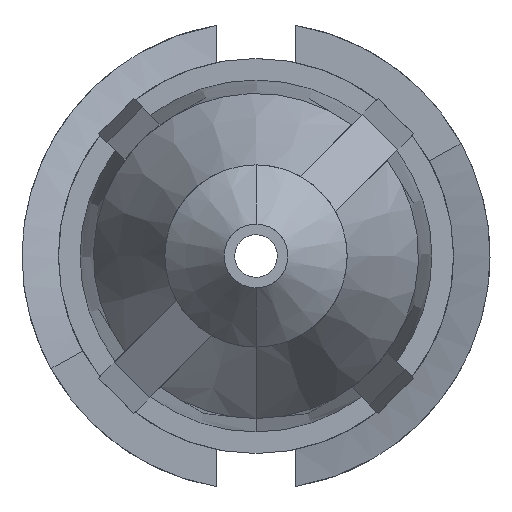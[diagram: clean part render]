
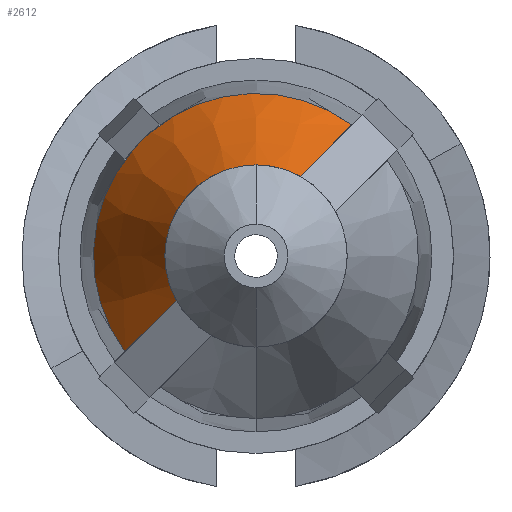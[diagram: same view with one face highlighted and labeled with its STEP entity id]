
A CAD part, left-side view. The second image highlights one B-rep face of the part: STEP entity #2612.
In plain terms, the highlighted conical face has half-angle 23.742 degrees and reference radius 2.674 mm.
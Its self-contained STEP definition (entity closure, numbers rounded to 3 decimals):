
#16 = FACE_OUTER_BOUND ( 'NONE', #169, .T. ) ;
#20 = AXIS2_PLACEMENT_3D ( 'NONE', #2733, #72, #1262 ) ;
#53 = CARTESIAN_POINT ( 'NONE',  ( -65.099, 6.097, 28.705 ) ) ;
#72 = DIRECTION ( 'NONE',  ( 1., 0., 0. ) ) ;
#92 = DIRECTION ( 'NONE',  ( 0., 0., -1. ) ) ;
#106 = DIRECTION ( 'NONE',  ( 1., 0., 0. ) ) ;
#112 = DIRECTION ( 'NONE',  ( 1., 0., 0. ) ) ;
#133 = DIRECTION ( 'NONE',  ( 0., 0., -1. ) ) ;
#169 = EDGE_LOOP ( 'NONE', ( #1665, #1667, #337, #442, #411 ) ) ;
#308 = VERTEX_POINT ( 'NONE', #1868 ) ;
#337 = ORIENTED_EDGE ( 'NONE', *, *, #1934, .T. ) ;
#411 = ORIENTED_EDGE ( 'NONE', *, *, #1366, .T. ) ;
#442 = ORIENTED_EDGE ( 'NONE', *, *, #2820, .T. ) ;
#527 = CARTESIAN_POINT ( 'NONE',  ( -62.429, 6.827, 27.394 ) ) ;
#663 = CIRCLE ( 'NONE', #1053, 1.5 ) ;
#670 = EDGE_CURVE ( 'NONE', #308, #2423, #2684, .T. ) ;
#686 = CARTESIAN_POINT ( 'NONE',  ( -64.211, 8.424, 26.377 ) ) ;
#730 = CARTESIAN_POINT ( 'NONE',  ( -64.211, 5.81, 28.992 ) ) ;
#817 = CARTESIAN_POINT ( 'NONE',  ( -65.099, 6.827, 27.394 ) ) ;
#918 = VERTEX_POINT ( 'NONE', #1537 ) ;
#956 = CARTESIAN_POINT ( 'NONE',  ( -62.429, 8.986, 25.816 ) ) ;
#1006 = CONICAL_SURFACE ( 'NONE', #1987, 2.674, 0.414 ) ;
#1046 = CARTESIAN_POINT ( 'NONE',  ( -62.429, 5.248, 29.553 ) ) ;
#1053 = AXIS2_PLACEMENT_3D ( 'NONE', #2714, #112, #1716 ) ;
#1159 = CARTESIAN_POINT ( 'NONE',  ( -65.099, 6.097, 28.705 ) ) ;
#1262 = DIRECTION ( 'NONE',  ( 0., 0., -1. ) ) ;
#1330 = VERTEX_POINT ( 'NONE', #1512 ) ;
#1366 = EDGE_CURVE ( 'NONE', #1330, #2313, #2513, .T. ) ;
#1413 = B_SPLINE_CURVE_WITH_KNOTS ( 'NONE', 3,
 ( #2394, #2593, #730, #53 ),
 .UNSPECIFIED., .F., .F.,
 ( 4, 4 ),
 ( 0., 0.003 ),
 .UNSPECIFIED. ) ;
#1512 = CARTESIAN_POINT ( 'NONE',  ( -65.099, 6.827, 28.894 ) ) ;
#1537 = CARTESIAN_POINT ( 'NONE',  ( -65.099, 8.137, 26.664 ) ) ;
#1665 = ORIENTED_EDGE ( 'NONE', *, *, #2022, .F. ) ;
#1667 = ORIENTED_EDGE ( 'NONE', *, *, #670, .F. ) ;
#1716 = DIRECTION ( 'NONE',  ( 0., 0., -1. ) ) ;
#1811 = AXIS2_PLACEMENT_3D ( 'NONE', #817, #106, #133 ) ;
#1868 = CARTESIAN_POINT ( 'NONE',  ( -62.429, 8.986, 25.816 ) ) ;
#1899 = CARTESIAN_POINT ( 'NONE',  ( -63.32, 8.705, 26.096 ) ) ;
#1934 = EDGE_CURVE ( 'NONE', #308, #918, #3064, .T. ) ;
#1987 = AXIS2_PLACEMENT_3D ( 'NONE', #527, #2238, #92 ) ;
#2022 = EDGE_CURVE ( 'NONE', #2423, #2313, #1413, .T. ) ;
#2238 = DIRECTION ( 'NONE',  ( 1., 0., 0. ) ) ;
#2313 = VERTEX_POINT ( 'NONE', #1159 ) ;
#2362 = CARTESIAN_POINT ( 'NONE',  ( -65.099, 8.137, 26.664 ) ) ;
#2394 = CARTESIAN_POINT ( 'NONE',  ( -62.429, 5.248, 29.553 ) ) ;
#2423 = VERTEX_POINT ( 'NONE', #1046 ) ;
#2513 = CIRCLE ( 'NONE', #1811, 1.5 ) ;
#2593 = CARTESIAN_POINT ( 'NONE',  ( -63.32, 5.529, 29.273 ) ) ;
#2612 = ADVANCED_FACE ( 'NONE', ( #16 ), #1006, .T. ) ;
#2684 = CIRCLE ( 'NONE', #20, 2.674 ) ;
#2714 = CARTESIAN_POINT ( 'NONE',  ( -65.099, 6.827, 27.394 ) ) ;
#2733 = CARTESIAN_POINT ( 'NONE',  ( -62.429, 6.827, 27.394 ) ) ;
#2820 = EDGE_CURVE ( 'NONE', #918, #1330, #663, .T. ) ;
#3064 = B_SPLINE_CURVE_WITH_KNOTS ( 'NONE', 3,
 ( #956, #1899, #686, #2362 ),
 .UNSPECIFIED., .F., .F.,
 ( 4, 4 ),
 ( 0., 0.003 ),
 .UNSPECIFIED. ) ;
